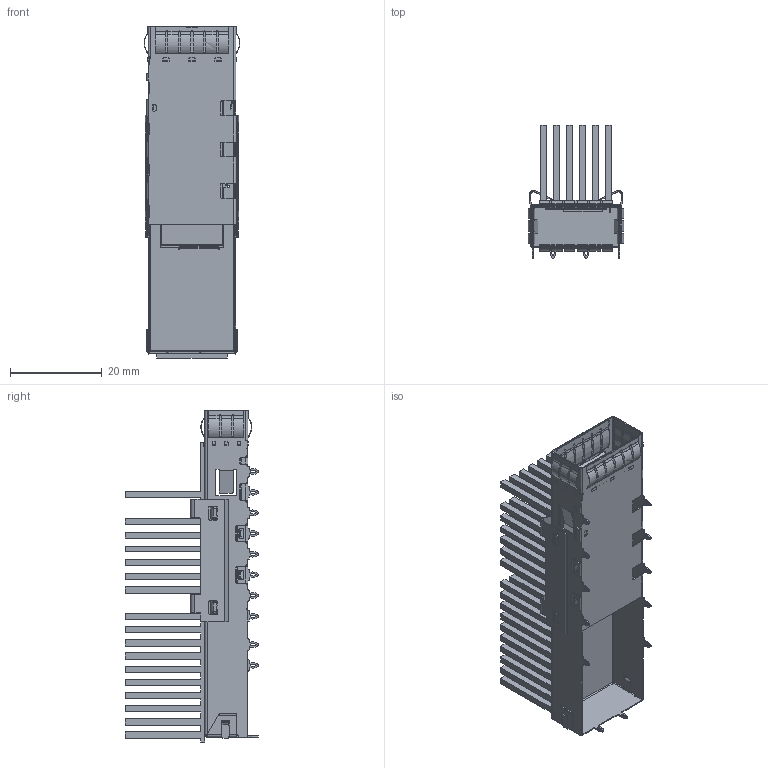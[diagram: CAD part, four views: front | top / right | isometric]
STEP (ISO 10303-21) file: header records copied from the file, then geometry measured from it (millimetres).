
FILE_DESCRIPTION(/* description */ (''),/* implementation_level */ '2;1');
FILE_NAME(/* name */ '_model2.stp',/* time_stamp */ '2025-10-08T08:36:16+08:00',/* author */ (''),/* organization */ (''),/* preprocessor_version */ 'ST-DEVELOPER v16.7',/* originating_system */ 'SIEMENS PLM Software NX 1847',/* authorisation */ '');
FILE_SCHEMA (('AUTOMOTIVE_DESIGN { 1 0 10303 214 3 1 1 1 }'));
Products named in the file (1): Admi1E402A78sdof
Bounding box: 20.82 x 29.05 x 72.3 mm (x, y, z)
Volume: 5346.9 mm3; surface area: 18236.5 mm2
Topology: 1 solids, 1 shells, 2206 faces, 5999 edges, 3766 vertices
Faces by surface type: plane 1353, cylinder 774, bspline 63, sphere 16
Entity records: 73255 total; most frequent: CARTESIAN_POINT 16918, ORIENTED_EDGE 11966, DIRECTION 11635, EDGE_CURVE 5983, LINE 4097, VECTOR 4097, AXIS2_PLACEMENT_3D 3769, VERTEX_POINT 3766
